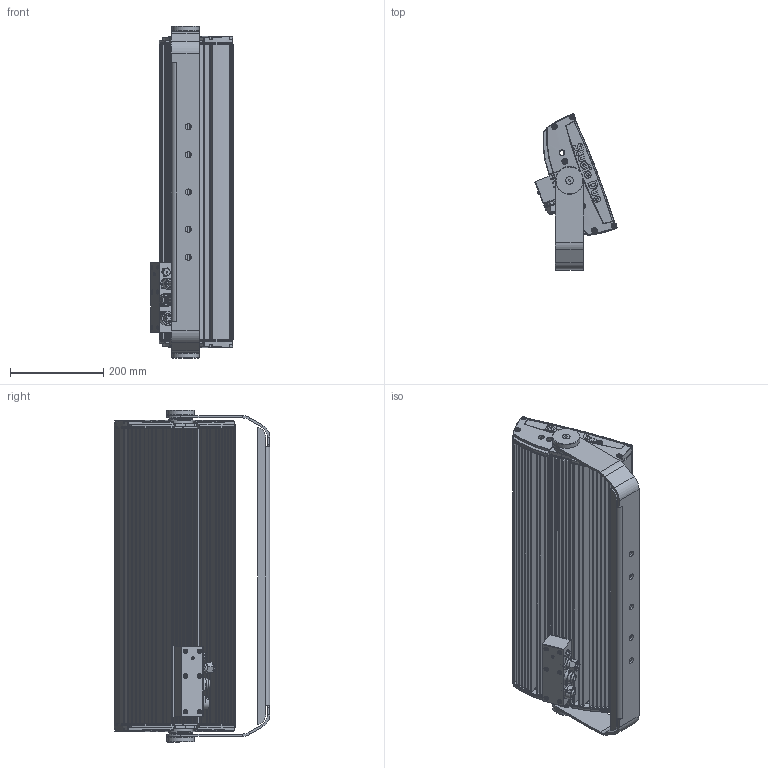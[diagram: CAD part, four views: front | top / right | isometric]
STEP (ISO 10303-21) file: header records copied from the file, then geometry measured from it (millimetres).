
FILE_DESCRIPTION(/* description */ (''),/* implementation_level */ '2;1');
FILE_NAME(/* name */ '230310 - COMPACT 80 RGBW.stp',/* time_stamp */ '2026-06-24T15:10:14+02:00',/* author */ ('mecca'),/* organization */ (''),/* preprocessor_version */ 'ST-DEVELOPER v20.1',/* originating_system */ 'Autodesk Inventor 2027',/* authorisation */ '');
FILE_SCHEMA (('AUTOMOTIVE_DESIGN { 1 0 10303 214 3 1 1 }'));
Products named in the file (25): 230310 - COMPACT 80 RGBW; 230310-BASE-00; 230310-010-00; 230310-010-00_1; 230310-013-00; 230310-013-00_1; ISO 10642 - M8 x  25; 230310-TESTA-00; 230310-001-00; 230310-001-00_1; 230310-011-00; 230310-011-00_1; 230310-014-00; Vite_TCEI_AF_4,8x22; 230310-012-00; 230310-026-00; 230310-008-00; 230310-008-00_1; 230310-009-00; Tappo Valvolina Anticondensa; PG 11; DMX_Female; DMX_Male; UNI 5931 - M 3 x  10; UNI 5931 - M 4 x  40
Assembly tree (38 placements, depth 4):
  230310 - COMPACT 80 RGBW
    230310-BASE-00
      230310-010-00
        230310-010-00_1
      230310-013-00  x2
        230310-013-00_1
        ISO 10642 - M8 x  25
    230310-TESTA-00
      230310-001-00
        230310-001-00_1
      230310-011-00  x2
        230310-011-00_1
        230310-014-00
        Vite_TCEI_AF_4,8x22
        230310-012-00
      230310-026-00
      230310-008-00
        230310-008-00_1
        230310-009-00
        Tappo Valvolina Anticondensa
        PG 11
        DMX_Female
        DMX_Male
        UNI 5931 - M 3 x  10  x5
        UNI 5931 - M 4 x  40  x6
Bounding box: 175.88 x 333.95 x 712 mm (x, y, z)
Volume: 3890753 mm3; surface area: 2376676 mm2
Topology: 38 solids, 38 shells, 2587 faces, 6590 edges, 4142 vertices
Faces by surface type: plane 949, cylinder 841, bspline 462, cone 146, torus 133, sphere 56
Full cylindrical faces by diameter (mm): 1.5 x4, 1.6 x4, 2.3 x6, 2.459 x5, 3 x5, 3.2 x2, 3.242 x6, 3.5 x2, 3.9 x4, 4 x6, 4.5 x12, 4.8 x8, 5.5 x13, 5.6 x24, 6.6 x2, 6.647 x2, 7 x6, 8 x4, 8.2 x2, 9.9 x8, 10 x6, 10.2 x1, 10.376 x1, 10.5 x1, 10.85 x8, 11 x8, 12.5 x2, 13 x5, 13.5 x1, 14.1 x1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
Entity records: 57442 total; most frequent: CARTESIAN_POINT 17210, ORIENTED_EDGE 8362, DIRECTION 8108, EDGE_CURVE 4181, AXIS2_PLACEMENT_3D 3019, VERTEX_POINT 2665, LINE 2070, VECTOR 2070
